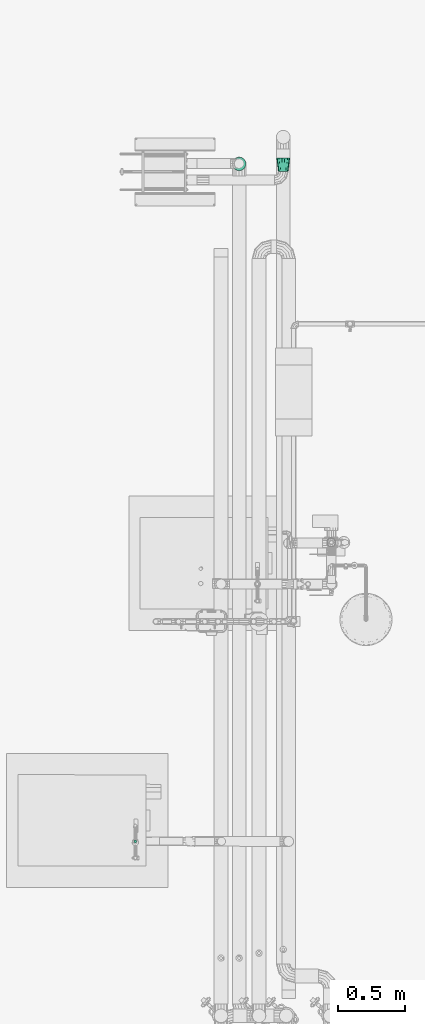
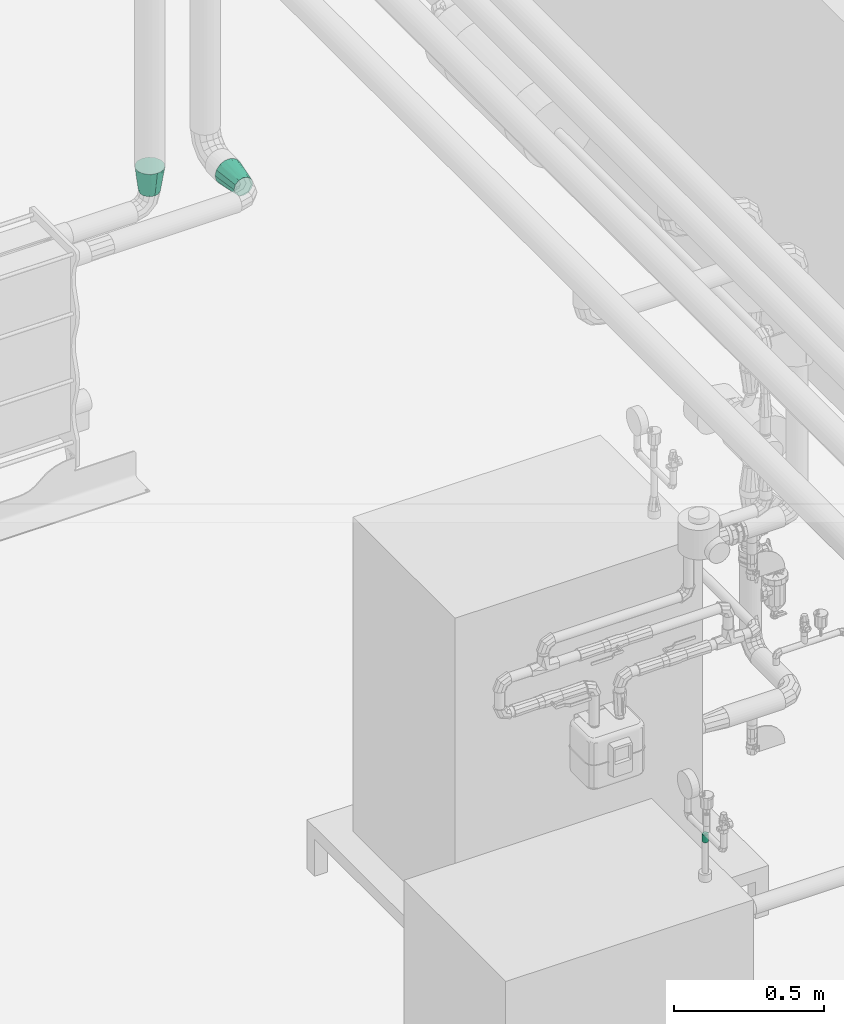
# One storey, part 35 of 43: 3 flow fittings.
"""IFC2X3 building model written with IfcOpenShell, lengths in millimetres."""

from ifc_helpers import new_model, entity, si_unit, converted_unit, derived_unit, direction, frame, origin, place, context, subcontext, project, spatial, faceted_brep, source, transform, mapped, material, type_object, type_shapes, element, save


model = new_model("IFC2X3")

# Units and contexts
model_context = context("Model", 3, precision=0.01, world=origin(), true_north=direction((6.123031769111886e-17, 1.0)))
body_context = subcontext(model_context, "Body", "Model", "MODEL_VIEW")
ifc_project = project(units=[si_unit("LENGTHUNIT", "METRE", prefix="MILLI"), si_unit("AREAUNIT", "SQUARE_METRE"), si_unit("VOLUMEUNIT", "CUBIC_METRE"), converted_unit("PLANEANGLEUNIT", "DEGREE", entity("IfcRatioMeasure", 0.017453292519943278), si_unit("PLANEANGLEUNIT", "RADIAN"), dimensions=[0, 0, 0, 0, 0, 0, 0]), si_unit("MASSUNIT", "GRAM", prefix="KILO"), derived_unit("MASSDENSITYUNIT", [(si_unit("MASSUNIT", "GRAM", prefix="KILO"), 1), (si_unit("LENGTHUNIT", "METRE"), -3)]), derived_unit("MOMENTOFINERTIAUNIT", [(si_unit("LENGTHUNIT", "METRE"), 4)]), si_unit("TIMEUNIT", "SECOND"), si_unit("FREQUENCYUNIT", "HERTZ"), si_unit("THERMODYNAMICTEMPERATUREUNIT", "DEGREE_CELSIUS"), derived_unit("THERMALTRANSMITTANCEUNIT", [(si_unit("MASSUNIT", "GRAM", prefix="KILO"), 1), (si_unit("THERMODYNAMICTEMPERATUREUNIT", "KELVIN"), -1), (si_unit("TIMEUNIT", "SECOND"), -3)]), derived_unit("VOLUMETRICFLOWRATEUNIT", [(si_unit("LENGTHUNIT", "METRE"), 3), (si_unit("TIMEUNIT", "SECOND"), -1)]), derived_unit("MASSFLOWRATEUNIT", [(si_unit("MASSUNIT", "GRAM", prefix="KILO"), 1), (si_unit("TIMEUNIT", "SECOND"), -1)]), derived_unit("ROTATIONALFREQUENCYUNIT", [(si_unit("TIMEUNIT", "SECOND"), -1)]), si_unit("ELECTRICCURRENTUNIT", "AMPERE"), si_unit("ELECTRICVOLTAGEUNIT", "VOLT"), si_unit("POWERUNIT", "WATT"), si_unit("FORCEUNIT", "NEWTON", prefix="KILO"), si_unit("ILLUMINANCEUNIT", "LUX"), si_unit("LUMINOUSFLUXUNIT", "LUMEN"), si_unit("LUMINOUSINTENSITYUNIT", "CANDELA"), derived_unit("USERDEFINED", [(si_unit("MASSUNIT", "GRAM", prefix="KILO"), -1), (si_unit("LENGTHUNIT", "METRE"), -2), (si_unit("TIMEUNIT", "SECOND"), 3), (si_unit("LUMINOUSFLUXUNIT", "LUMEN"), 1)]), derived_unit("SOUNDPOWERUNIT", [(si_unit("MASSUNIT", "GRAM", prefix="KILO"), 1), (si_unit("LENGTHUNIT", "METRE"), 2), (si_unit("TIMEUNIT", "SECOND"), -3)]), derived_unit("SOUNDPRESSUREUNIT", [(si_unit("MASSUNIT", "GRAM", prefix="KILO"), 1), (si_unit("LENGTHUNIT", "METRE"), -1), (si_unit("TIMEUNIT", "SECOND"), -2)]), derived_unit("LINEARVELOCITYUNIT", [(si_unit("LENGTHUNIT", "METRE"), 1), (si_unit("TIMEUNIT", "SECOND"), -1)]), si_unit("PRESSUREUNIT", "PASCAL"), derived_unit("USERDEFINED", [(si_unit("LENGTHUNIT", "METRE"), -2), (si_unit("MASSUNIT", "GRAM", prefix="KILO"), 1), (si_unit("TIMEUNIT", "SECOND"), -2)]), derived_unit("LINEARFORCEUNIT", [(si_unit("MASSUNIT", "GRAM", prefix="KILO"), 1), (si_unit("LENGTHUNIT", "METRE"), 1), (si_unit("TIMEUNIT", "SECOND"), -2), (si_unit("LENGTHUNIT", "METRE"), -1)]), derived_unit("PLANARFORCEUNIT", [(si_unit("MASSUNIT", "GRAM", prefix="KILO"), 1), (si_unit("LENGTHUNIT", "METRE"), 1), (si_unit("TIMEUNIT", "SECOND"), -2), (si_unit("LENGTHUNIT", "METRE"), -2)])], contexts=[model_context])

# Site, building, storey
site_placement = place(None, origin())
site = spatial("IfcSite", under=ifc_project, at=site_placement, Name="Default", CompositionType="ELEMENT")
building_placement = place(site_placement, origin())
building = spatial("IfcBuilding", under=site, at=building_placement, CompositionType="ELEMENT")
storey_placement = place(building_placement, frame((0.0, 0.0, 270.0)))
storey = spatial("IfcBuildingStorey", under=building, at=storey_placement, Name="Niveau 0", CompositionType="ELEMENT", Elevation=270.0)

# Flow fittings
ifc_material = material(Name="<Unnamed>")
pipe_fitting_type_1 = type_object("IfcPipeFittingType", Name="Transformation - Générique:Standard", PredefinedType="NOTDEFINED", material=ifc_material)
shared_shape_1 = source(origin(), body_context, "Body", "Brep", [
    faceted_brep([(102.0, 33.93363549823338, 0.0), (102.0, 31.488599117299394, 9.125000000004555), (102.0, 29.043562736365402, 18.250000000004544), (102.0, 22.36359911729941, 24.929963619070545), (102.0, 15.683635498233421, 31.609927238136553), (102.0, 6.558635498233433, 34.054963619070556), (102.0, -2.566364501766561, 36.50000000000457), (102.0, -11.691364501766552, 34.05496361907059), (102.0, -20.816364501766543, 31.60992723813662), (102.0, -27.49632812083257, 24.929963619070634), (102.0, -34.17629173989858, 18.25000000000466), (102.0, -36.62132812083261, 9.125000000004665), (102.0, -39.06636450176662, 0.0), (102.0, -36.62132812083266, -9.124999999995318), (102.0, -34.1762917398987, -18.249999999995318), (102.0, -27.496328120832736, -24.929963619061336), (102.0, -20.816364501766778, -31.60992723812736), (102.0, -11.691364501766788, -34.0549636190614), (102.0, -2.5663645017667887, -36.49999999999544), (102.0, 6.558635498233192, -34.0549636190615), (102.0, 15.683635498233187, -31.60992723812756), (102.0, 22.363599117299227, -24.92996361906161), (102.0, 29.043562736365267, -18.24999999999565), (102.0, 31.488599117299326, -9.124999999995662), (0.0, -31.673281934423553, 39.71703930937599), (0.0, -21.488672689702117, 44.621688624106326), (0.0, -11.304063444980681, 49.52633793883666), (0.0, 0.0, 49.52633793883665), (0.0, 11.304063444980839, 49.52633793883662), (0.0, 21.488672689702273, 44.621688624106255), (0.0, 31.6732819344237, 39.717039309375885), (0.0, 38.7212502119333, 30.87916662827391), (0.0, 45.769218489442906, 22.041293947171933), (0.0, 48.28460924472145, 11.020646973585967), (0.0, 50.8, 0.0), (0.0, 48.28460924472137, -11.02064697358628), (0.0, 45.76921848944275, -22.04129394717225), (0.0, 38.72125021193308, -30.879166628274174), (0.0, 31.673281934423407, -39.71703930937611), (0.0, 21.488672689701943, -44.62168862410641), (0.0, 11.304063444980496, -49.5263379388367), (0.0, 0.0, -49.52633793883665), (0.0, -11.304063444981, -49.52633793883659), (0.0, -21.48867268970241, -44.62168862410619), (0.0, -31.673281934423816, -39.71703930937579), (0.0, -38.721250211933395, -30.879166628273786), (0.0, -45.76921848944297, -22.041293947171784), (0.0, -48.28460924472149, -11.02064697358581), (0.0, -50.8, 0.0), (0.0, -48.28460924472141, 11.020646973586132), (0.0, -45.76921848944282, 22.041293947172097), (0.0, -38.72125021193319, 30.879166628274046), (48.16746358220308, -32.94001327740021, -30.55283431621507), (50.822839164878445, -25.8185753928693, -36.128757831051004), (47.206223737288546, -38.597589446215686, -23.506174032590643), (49.77859177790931, -42.48165476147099, -14.847678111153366), (58.83781308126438, -44.03155439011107, 0.0), (48.62889002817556, -15.749996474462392, -41.514273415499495), (48.62889018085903, 13.302948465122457, -41.51427333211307), (51.083493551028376, -6.195016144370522, -43.36121850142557), (48.16746320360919, 29.340919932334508, -31.72809894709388), (58.83780516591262, 41.0707856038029, 0.0), (51.0, 3.5259766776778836, -43.38426546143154), (47.20622432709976, 22.31844418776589, -37.409860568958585), (47.206224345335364, 36.222131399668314, -23.506173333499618), (49.778591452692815, 39.976753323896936, -14.847676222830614), (48.1674635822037, 30.516184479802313, 30.552834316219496), (50.822839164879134, 23.261125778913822, 36.12875783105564), (47.20622373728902, 36.222131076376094, 23.506174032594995), (49.778591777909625, 39.97675258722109, 14.847678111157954), (48.628890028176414, 13.302948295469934, 41.514273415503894), (48.6288901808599, -15.749996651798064, 41.51427333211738), (51.083493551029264, 3.624450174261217, 43.361218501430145), (48.16746320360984, -31.76474871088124, 31.72809894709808), (51.0, -6.092341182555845, 43.3842654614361), (47.20622432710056, -24.693902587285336, 37.40986056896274), (47.20622434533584, -38.59758980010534, 23.50617333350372), (49.778591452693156, -42.48165548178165, 14.847676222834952)], [[[0, 1, 2, 3, 4, 5, 6, 7, 8, 9, 10, 11, 12, 13, 14, 15, 16, 17, 18, 19, 20, 21, 22, 23]], [[24, 25, 26, 27, 28, 29, 30, 31, 32, 33, 34, 35, 36, 37, 38, 39, 40, 41, 42, 43, 44, 45, 46, 47, 48, 49, 50, 51]], [[52, 53, 15]], [[15, 54, 52]], [[53, 44, 43]], [[53, 16, 15]], [[54, 45, 52]], [[55, 46, 54]], [[54, 46, 45]], [[13, 55, 14]], [[54, 15, 14]], [[56, 13, 12]], [[53, 43, 57]], [[53, 57, 16]], [[39, 58, 40]], [[17, 57, 59]], [[38, 37, 60]], [[45, 44, 52]], [[52, 44, 53]], [[0, 23, 61]], [[55, 56, 47]], [[59, 41, 62]], [[56, 48, 47]], [[21, 20, 63]], [[64, 22, 21]], [[36, 65, 64]], [[13, 56, 55]], [[47, 46, 55]], [[62, 18, 59]], [[57, 43, 42]], [[55, 54, 14]], [[59, 57, 42]], [[57, 17, 16]], [[40, 58, 62]], [[17, 59, 18]], [[59, 42, 41]], [[41, 40, 62]], [[18, 62, 19]], [[58, 20, 19]], [[58, 39, 63]], [[38, 63, 39]], [[62, 58, 19]], [[21, 60, 64]], [[58, 63, 20]], [[63, 60, 21]], [[60, 63, 38]], [[36, 64, 37]], [[60, 37, 64]], [[22, 65, 23]], [[64, 65, 22]], [[65, 35, 61]], [[65, 36, 35]], [[35, 34, 61]], [[23, 65, 61]], [[66, 67, 3]], [[3, 68, 66]], [[67, 30, 29]], [[67, 4, 3]], [[68, 31, 66]], [[69, 32, 68]], [[68, 32, 31]], [[1, 69, 2]], [[68, 3, 2]], [[61, 1, 0]], [[67, 29, 70]], [[67, 70, 4]], [[25, 71, 26]], [[5, 70, 72]], [[24, 51, 73]], [[31, 30, 66]], [[66, 30, 67]], [[12, 11, 56]], [[69, 61, 33]], [[72, 27, 74]], [[61, 34, 33]], [[9, 8, 75]], [[76, 10, 9]], [[50, 77, 76]], [[1, 61, 69]], [[33, 32, 69]], [[74, 6, 72]], [[70, 29, 28]], [[69, 68, 2]], [[72, 70, 28]], [[70, 5, 4]], [[26, 71, 74]], [[5, 72, 6]], [[72, 28, 27]], [[27, 26, 74]], [[6, 74, 7]], [[71, 8, 7]], [[71, 25, 75]], [[24, 75, 25]], [[74, 71, 7]], [[9, 73, 76]], [[71, 75, 8]], [[75, 73, 9]], [[73, 75, 24]], [[50, 76, 51]], [[73, 51, 76]], [[10, 77, 11]], [[76, 77, 10]], [[77, 49, 56]], [[77, 50, 49]], [[49, 48, 56]], [[11, 77, 56]]]),
])
type_shapes(pipe_fitting_type_1, [shared_shape_1])
flow_fitting_1_placement = place(storey_placement, frame((-2368.2631800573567, -6486.499999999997, 1074.364864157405), z_axis=(-1.0, 0.0, 0.0), x_axis=(0.0, 0.0, -1.0)))
element("IfcFlowFitting", 1, at=flow_fitting_1_placement, inside=storey, type_object=pipe_fitting_type_1, material=ifc_material, Name="Transformation - Générique:Standard", ObjectType="Transformation - Générique:Standard", context=body_context, shape_type="MappedRepresentation", body=[
    mapped(shared_shape_1, transform((0.0, 0.0, 0.0), scale=1.0)),
])
pipe_fitting_type_2 = type_object("IfcPipeFittingType", Name="Transformation - Générique:Standard", PredefinedType="NOTDEFINED", material=ifc_material)
shared_shape_2 = source(origin(), body_context, "Body", "Brep", [
    faceted_brep([(102.0, -50.80000000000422, 0.0), (102.0, -48.28460924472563, -11.020646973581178), (102.0, -45.76921848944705, -22.04129394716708), (102.0, -38.72125021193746, -30.87916662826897), (102.0, -31.673281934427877, -39.71703930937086), (102.0, -21.488672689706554, -44.621688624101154), (102.0, -11.304063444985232, -49.526337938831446), (102.0, 0.0, -49.52633793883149), (102.0, 11.30406344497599, -49.52633793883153), (102.0, 21.488672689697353, -44.62168862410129), (102.0, 31.673281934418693, -39.717039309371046), (102.0, 38.72125021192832, -30.879166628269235), (102.0, 45.76921848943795, -22.04129394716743), (102.0, 48.28460924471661, -11.020646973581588), (102.0, 50.79999999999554, 0.0), (102.0, 48.28460924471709, 11.020646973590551), (102.0, 45.769218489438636, 22.04129394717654), (102.0, 38.721250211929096, 30.87916662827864), (102.0, 31.67328193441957, 39.71703930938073), (102.0, 21.488672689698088, 44.62168862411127), (102.0, 11.30406344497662, 49.52633793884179), (102.0, 0.0, 49.5263379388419), (102.0, -11.30406344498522, 49.52633793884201), (102.0, -21.488672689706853, 44.62168862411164), (102.0, -31.6732819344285, 39.717039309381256), (102.0, -38.72125021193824, 30.879166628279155), (102.0, -45.769218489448, 22.041293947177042), (102.0, -48.284609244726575, 11.020646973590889), (0.0, -31.609927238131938, -18.249999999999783), (0.0, -34.05496361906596, -9.124999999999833), (0.0, -36.50000000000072, 0.0), (0.0, -34.0549636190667, 9.125000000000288), (0.0, -31.609927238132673, 18.250000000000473), (0.0, -24.929963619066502, 24.92996361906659), (0.0, -18.25000000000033, 31.60992723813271), (0.0, -9.125000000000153, 34.054963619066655), (0.0, 0.0, 36.50000000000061), (0.0, 9.12500000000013, 34.05496361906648), (0.0, 18.250000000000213, 31.609927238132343), (0.0, 24.929963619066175, 24.92996361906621), (0.0, 31.609927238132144, 18.250000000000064), (0.0, 34.05496361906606, 9.125000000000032), (0.0, 36.499999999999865, 0.0), (0.0, 34.05496361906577, -9.125000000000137), (0.0, 31.60992723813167, -18.250000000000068), (0.0, 24.929963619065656, -24.92996361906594), (0.0, 18.249999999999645, -31.60992723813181), (0.0, 9.124999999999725, -34.054963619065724), (0.0, 0.0, -36.499999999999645), (0.0, -9.125000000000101, -34.05496361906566), (0.0, -18.25, -31.60992723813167), (0.0, -24.929963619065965, -24.929963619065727)], [[[0, 1, 2, 3, 4, 5, 6, 7, 8, 9, 10, 11, 12, 13, 14, 15, 16, 17, 18, 19, 20, 21, 22, 23, 24, 25, 26, 27]], [[28, 29, 30, 31, 32, 33, 34, 35, 36, 37, 38, 39, 40, 41, 42, 43, 44, 45, 46, 47, 48, 49, 50, 51]], [[28, 2, 29]], [[11, 10, 45]], [[13, 42, 14]], [[3, 2, 28]], [[30, 29, 1]], [[42, 13, 43]], [[30, 1, 0]], [[46, 10, 9]], [[48, 8, 7, 6]], [[51, 50, 4]], [[29, 2, 1]], [[47, 46, 9]], [[28, 51, 3]], [[51, 4, 3]], [[5, 4, 50]], [[8, 48, 47]], [[10, 46, 45]], [[8, 47, 9]], [[49, 5, 50]], [[44, 11, 45]], [[43, 12, 44]], [[5, 49, 6]], [[49, 48, 6]], [[11, 44, 12]], [[13, 12, 43]], [[40, 16, 41]], [[25, 24, 33]], [[27, 30, 0]], [[17, 16, 40]], [[42, 41, 15]], [[30, 27, 31]], [[42, 15, 14]], [[34, 24, 23]], [[36, 22, 21, 20]], [[39, 38, 18]], [[41, 16, 15]], [[35, 34, 23]], [[40, 39, 17]], [[39, 18, 17]], [[19, 18, 38]], [[22, 36, 35]], [[24, 34, 33]], [[22, 35, 23]], [[37, 19, 38]], [[32, 25, 33]], [[31, 26, 32]], [[19, 37, 20]], [[37, 36, 20]], [[25, 32, 26]], [[27, 26, 31]]]),
])
type_shapes(pipe_fitting_type_2, [shared_shape_2])
flow_fitting_2_placement = place(storey_placement, frame((-2040.0, -6542.933635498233, 909.0), z_axis=(0.0, 0.0, 1.0), x_axis=(0.0, 1.0, 0.0)))
element("IfcFlowFitting", 2, at=flow_fitting_2_placement, inside=storey, type_object=pipe_fitting_type_2, material=ifc_material, Name="Transformation - Générique:Standard", ObjectType="Transformation - Générique:Standard", context=body_context, shape_type="MappedRepresentation", body=[
    mapped(shared_shape_2, transform((0.0, 0.0, 0.0), scale=1.0)),
])
pipe_fitting_type_3 = type_object("IfcPipeFittingType", Name="Piquage Acier Noir droit:Longueur = 25", PredefinedType="NOTDEFINED", material=ifc_material)
shared_shape_3 = source(origin(), body_context, "Body", "Brep", [
    faceted_brep([(-6.0959999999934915, 0.0, -10.650000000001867), (-6.095999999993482, -2.756422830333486, -10.287110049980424), (-6.095999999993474, -5.324999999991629, -9.223170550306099), (-6.095999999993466, -7.530687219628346, -7.530687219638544), (-6.0959999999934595, -9.223170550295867, -5.325000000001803), (-6.095999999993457, -10.287110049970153, -2.756422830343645), (-6.095999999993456, -10.649999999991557, 0.0), (-6.095999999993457, -10.2871100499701, 2.7564228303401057), (-6.0959999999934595, -9.223170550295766, 5.324999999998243), (-6.095999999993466, -7.530687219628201, 7.530687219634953), (-6.095999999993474, -5.324999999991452, 9.223170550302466), (-6.095999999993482, -2.7564228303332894, 10.287110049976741), (-6.0959999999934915, 0.0, 10.649999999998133), (-6.095999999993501, 2.7564228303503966, 10.287110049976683), (-6.095999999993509, 5.3250000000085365, 9.22317055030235), (-6.095999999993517, 7.530687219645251, 7.530687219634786), (-6.0959999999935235, 9.22317055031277, 5.3249999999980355), (-6.095999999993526, 10.287110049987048, 2.7564228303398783), (-6.095999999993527, 10.650000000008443, 0.0), (-6.095999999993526, 10.287110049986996, -2.7564228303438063), (-6.0959999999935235, 9.223170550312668, -5.325000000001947), (-6.095999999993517, 7.530687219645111, -7.530687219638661), (-6.095999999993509, 5.325000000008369, -9.223170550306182), (-6.095999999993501, 2.7564228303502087, -10.287110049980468), (0.0, 10.650000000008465, 0.0), (0.0, 10.28711004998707, 2.7564228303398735), (25.0, 10.287110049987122, 2.7564228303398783), (25.0, 10.650000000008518, 0.0), (0.0, 9.22317055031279, 5.3249999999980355), (25.0, 9.223170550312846, 5.3249999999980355), (0.0, 5.325000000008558, 9.22317055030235), (25.0, 5.325000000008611, 9.22317055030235), (25.0, 7.530687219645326, 7.530687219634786), (0.0, 7.530687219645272, 7.530687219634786), (0.0, 2.756422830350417, 10.287110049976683), (25.0, 2.756422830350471, 10.287110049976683), (0.0, 0.0, 10.649999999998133), (25.0, 0.0, 10.649999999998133), (0.0, -2.756422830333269, 10.287110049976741), (0.0, -5.324999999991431, 9.223170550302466), (25.0, -5.324999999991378, 9.223170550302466), (25.0, -2.756422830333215, 10.287110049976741), (0.0, -7.53068721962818, 7.530687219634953), (25.0, -7.530687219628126, 7.530687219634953), (0.0, -10.287110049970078, 2.7564228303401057), (25.0, -10.287110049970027, 2.7564228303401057), (25.0, -9.223170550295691, 5.324999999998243), (0.0, -9.223170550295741, 5.324999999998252), (0.0, -10.649999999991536, 0.0), (25.0, -10.649999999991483, 0.0), (0.0, -10.287110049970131, -2.756422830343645), (25.0, -10.287110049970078, -2.756422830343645), (0.0, -9.223170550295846, -5.325000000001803), (25.0, -9.223170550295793, -5.325000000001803), (0.0, -5.3249999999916, -9.223170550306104), (25.0, -5.3249999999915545, -9.223170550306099), (25.0, -7.530687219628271, -7.530687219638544), (0.0, -7.530687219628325, -7.530687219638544), (0.0, -2.756422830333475, -10.287110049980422), (25.0, -2.7564228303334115, -10.287110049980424), (0.0, 0.0, -10.650000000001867), (25.0, 0.0, -10.650000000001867), (0.0, 2.7564228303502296, -10.287110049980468), (0.0, 5.325000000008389, -9.223170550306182), (25.0, 5.325000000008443, -9.223170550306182), (25.0, 2.7564228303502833, -10.287110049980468), (0.0, 7.530687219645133, -7.530687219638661), (25.0, 7.530687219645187, -7.530687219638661), (0.0, 10.287110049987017, -2.7564228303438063), (25.0, 10.28711004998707, -2.7564228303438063), (25.0, 9.223170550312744, -5.325000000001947), (0.0, 9.22317055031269, -5.325000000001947)], [[[0, 1, 2, 3, 4, 5, 6, 7, 8, 9, 10, 11, 12, 13, 14, 15, 16, 17, 18, 19, 20, 21, 22, 23]], [[24, 18, 17, 25, 26, 27]], [[25, 17, 16, 28, 29, 26]], [[30, 31, 32, 33, 15, 14]], [[16, 15, 33, 32, 29, 28]], [[34, 35, 31, 30, 14, 13]], [[12, 36, 37, 35, 34, 13]], [[38, 11, 10, 39, 40, 41]], [[39, 10, 9, 42, 43, 40]], [[44, 45, 46, 47, 8, 7]], [[9, 8, 47, 46, 43, 42]], [[48, 49, 45, 44, 7, 6]], [[38, 41, 37, 36, 12, 11]], [[48, 6, 5, 50, 51, 49]], [[50, 5, 4, 52, 53, 51]], [[54, 55, 56, 57, 3, 2]], [[4, 3, 57, 56, 53, 52]], [[58, 59, 55, 54, 2, 1]], [[0, 60, 61, 59, 58, 1]], [[62, 23, 22, 63, 64, 65]], [[63, 22, 21, 66, 67, 64]], [[68, 69, 70, 71, 20, 19]], [[21, 20, 71, 70, 67, 66]], [[24, 27, 69, 68, 19, 18]], [[62, 65, 61, 60, 0, 23]], [[55, 59, 61, 65, 64, 67, 70, 69, 27, 26, 29, 32, 31, 35, 37, 41, 40, 43, 46, 45, 49, 51, 53, 56]]]),
])
type_shapes(pipe_fitting_type_3, [shared_shape_3])
flow_fitting_3_placement = place(storey_placement, frame((-3141.4762481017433, -11531.487266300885, 1680.0681129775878), z_axis=(0.0, 1.0, 0.0), x_axis=(0.0, 0.0, -1.0)))
element("IfcFlowFitting", 3, at=flow_fitting_3_placement, inside=storey, type_object=pipe_fitting_type_3, material=ifc_material, Name="Piquage Acier Noir droit:Longueur = 25", ObjectType="Piquage Acier Noir droit:Longueur = 25", context=body_context, shape_type="MappedRepresentation", body=[
    mapped(shared_shape_3, transform((0.0, 0.0, 0.0), scale=1.0)),
])

save(model, "model.ifc")
